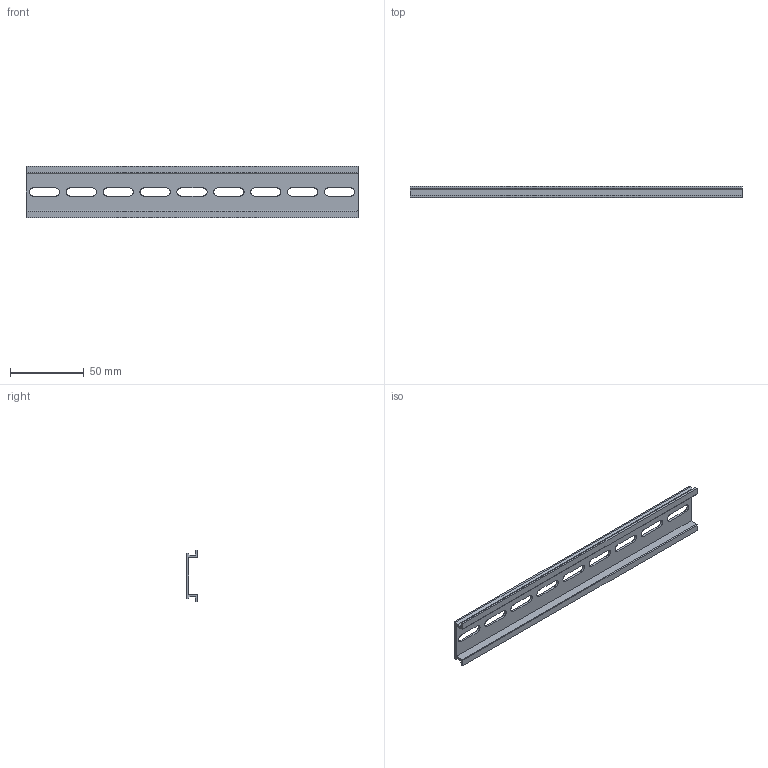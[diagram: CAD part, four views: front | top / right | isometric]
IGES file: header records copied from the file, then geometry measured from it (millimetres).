
Start section: ------------------------------------------------------------------------
Global section: file name: D:\ICADMX\tmp\trans3d_spg\CVICAD02.21224.DIN-RAIL225_7785.igs; native system: spGate; preprocessor: ver12.6.6; author: Unknown; organization: Unknown; date: 200901.142024; units: millimetre
Bounding box: 225 x 7.5 x 35 mm (x, y, z)
Volume: 15884.6 mm3; surface area: 21311.3 mm2
Topology: 1 solids, 1 shells, 56 faces, 162 edges, 108 vertices
Faces by surface type: bspline 56
